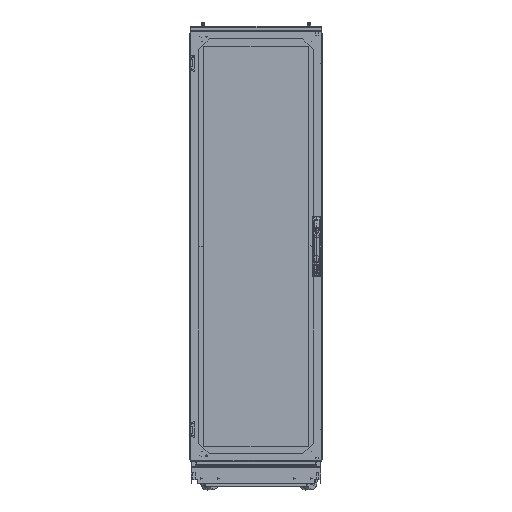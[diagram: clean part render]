
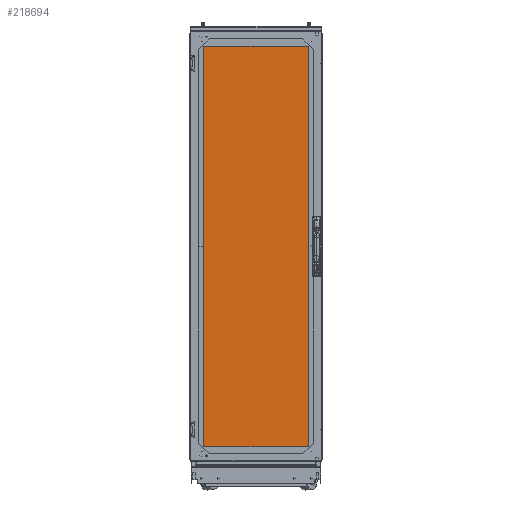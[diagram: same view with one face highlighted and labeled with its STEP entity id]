
A CAD part, top view. The second image highlights one B-rep face of the part: STEP entity #218694.
In plain terms, the highlighted free-form (B-spline) face has degree [1, 1] with [2, 2] control points.
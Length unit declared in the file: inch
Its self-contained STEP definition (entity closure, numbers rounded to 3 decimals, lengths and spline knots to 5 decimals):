
#218589=CARTESIAN_POINT('F2',(44.34304,-18.69752,
   0.125));
#218590=CARTESIAN_POINT('F2',(44.34304,2.7572,
   0.125));
#218591=CARTESIAN_POINT('F2',(-32.9601,
   -18.69752,0.125));
#218592=CARTESIAN_POINT('F2',(-32.9601,2.7572,
   0.125));
#218593=B_SPLINE_SURFACE_WITH_KNOTS('F2',1,1,((#218589,#218591),(
   #218590,#218592)),.PLANE_SURF.,.F.,.F.,.U.,(2,2),(2,2),(0.0,
   1.0),(0.0,3.60308),.UNSPECIFIED.);
#218594=CARTESIAN_POINT('V2',(40.57336,-18.1867,
   0.125));
#218595=VERTEX_POINT('V2',#218594);
#218596=CARTESIAN_POINT('V16',(42.5025,
   -16.25756,0.125));
#218597=VERTEX_POINT('V16',#218596);
#218598=CARTESIAN_POINT('E9',(40.57336,-18.1867,
   0.125));
#218599=CARTESIAN_POINT('E9',(42.5025,-16.25756,
   0.125));
#218600=QUASI_UNIFORM_CURVE('E9',1,(#218598,#218599),.POLYLINE_FORM.,
   .F.,.U.);
#218601=EDGE_CURVE('E9',#218595,#218597,#218600,.T.);
#218602=ORIENTED_EDGE('E9',*,*,#218601,.T.);
#218603=CARTESIAN_POINT('V14',(42.5025,0.31724,
   0.125));
#218604=VERTEX_POINT('V14',#218603);
#218605=CARTESIAN_POINT('E10',(42.5025,
   -16.25756,0.125));
#218606=CARTESIAN_POINT('E10',(42.5025,0.31724,
   0.125));
#218607=QUASI_UNIFORM_CURVE('E10',1,(#218605,#218606),
   .POLYLINE_FORM.,.F.,.U.);
#218608=EDGE_CURVE('E10',#218597,#218604,#218607,.T.);
#218609=ORIENTED_EDGE('E10',*,*,#218608,.T.);
#218610=CARTESIAN_POINT('V12',(40.57336,2.24637,
   0.125));
#218611=VERTEX_POINT('V12',#218610);
#218612=CARTESIAN_POINT('E11',(42.5025,0.31724,
   0.125));
#218613=CARTESIAN_POINT('E11',(40.57336,2.24637,
   0.125));
#218614=QUASI_UNIFORM_CURVE('E11',1,(#218612,#218613),
   .POLYLINE_FORM.,.F.,.U.);
#218615=EDGE_CURVE('E11',#218604,#218611,#218614,.T.);
#218616=ORIENTED_EDGE('E11',*,*,#218615,.T.);
#218617=CARTESIAN_POINT('V10',(-29.19042,2.24637,
   0.125));
#218618=VERTEX_POINT('V10',#218617);
#218619=CARTESIAN_POINT('E12',(40.57336,2.24637,
   0.125));
#218620=CARTESIAN_POINT('E12',(-29.19042,2.24637,
   0.125));
#218621=QUASI_UNIFORM_CURVE('E12',1,(#218619,#218620),
   .POLYLINE_FORM.,.F.,.U.);
#218622=EDGE_CURVE('E12',#218611,#218618,#218621,.T.);
#218623=ORIENTED_EDGE('E12',*,*,#218622,.T.);
#218624=CARTESIAN_POINT('V8',(-31.11955,0.31724,
   0.125));
#218625=VERTEX_POINT('V8',#218624);
#218626=CARTESIAN_POINT('E13',(-29.19042,2.24637,
   0.125));
#218627=CARTESIAN_POINT('E13',(-31.11955,0.31724,
   0.125));
#218628=QUASI_UNIFORM_CURVE('E13',1,(#218626,#218627),
   .POLYLINE_FORM.,.F.,.U.);
#218629=EDGE_CURVE('E13',#218618,#218625,#218628,.T.);
#218630=ORIENTED_EDGE('E13',*,*,#218629,.T.);
#218631=CARTESIAN_POINT('V6',(-31.11955,
   -16.25756,0.125));
#218632=VERTEX_POINT('V6',#218631);
#218633=CARTESIAN_POINT('E14',(-31.11955,0.31724,
   0.125));
#218634=CARTESIAN_POINT('E14',(-31.11955,
   -16.25756,0.125));
#218635=QUASI_UNIFORM_CURVE('E14',1,(#218633,#218634),
   .POLYLINE_FORM.,.F.,.U.);
#218636=EDGE_CURVE('E14',#218625,#218632,#218635,.T.);
#218637=ORIENTED_EDGE('E14',*,*,#218636,.T.);
#218638=CARTESIAN_POINT('V4',(-29.19042,
   -18.1867,0.125));
#218639=VERTEX_POINT('V4',#218638);
#218640=CARTESIAN_POINT('E15',(-31.11955,
   -16.25756,0.125));
#218641=CARTESIAN_POINT('E15',(-29.19042,
   -18.1867,0.125));
#218642=QUASI_UNIFORM_CURVE('E15',1,(#218640,#218641),
   .POLYLINE_FORM.,.F.,.U.);
#218643=EDGE_CURVE('E15',#218632,#218639,#218642,.T.);
#218644=ORIENTED_EDGE('E15',*,*,#218643,.T.);
#218645=CARTESIAN_POINT('E16',(-29.19042,
   -18.1867,0.125));
#218646=CARTESIAN_POINT('E16',(40.57336,
   -18.1867,0.125));
#218647=QUASI_UNIFORM_CURVE('E16',1,(#218645,#218646),
   .POLYLINE_FORM.,.F.,.U.);
#218648=EDGE_CURVE('E16',#218639,#218595,#218647,.T.);
#218649=ORIENTED_EDGE('E16',*,*,#218648,.T.);
#218650=EDGE_LOOP('F2',(#218602,#218609,#218616,#218623,#218630,
   #218637,#218644,#218649));
#218651=FACE_OUTER_BOUND('F2',#218650,.T.);
#218652=CARTESIAN_POINT('V20',(5.69147,-17.92119,
   0.125));
#218653=VERTEX_POINT('V20',#218652);
#218654=CARTESIAN_POINT('E29',(5.69147,-17.92119,
   0.125));
#218655=CARTESIAN_POINT('E29',(5.31259,-17.92119,
   0.125));
#218656=CARTESIAN_POINT('E29',(5.50203,-17.59307,
   0.125));
#218657=CARTESIAN_POINT('E29',(5.69147,-17.26494,
   0.125));
#218658=CARTESIAN_POINT('E29',(5.88092,-17.59307,
   0.125));
#218659=CARTESIAN_POINT('E29',(6.07036,-17.92119,
   0.125));
#218660=CARTESIAN_POINT('E29',(5.69147,-17.92119,
   0.125));
#218668=(BOUNDED_CURVE()B_SPLINE_CURVE(2,(#218654,#218655,#218656,
   #218657,#218658,#218659,#218660),.CIRCULAR_ARC.,.T.,.U.)
   B_SPLINE_CURVE_WITH_KNOTS((3,2,2,3),(0.0,0.33333,
   0.66667,1.0),.UNSPECIFIED.)CURVE()
   GEOMETRIC_REPRESENTATION_ITEM()RATIONAL_B_SPLINE_CURVE((1.0,
   0.5,1.0,0.5,1.0,0.5,1.0)
   )REPRESENTATION_ITEM('E29'));
#218669=EDGE_CURVE('E29',#218653,#218653,#218668,.T.);
#218670=ORIENTED_EDGE('E29',*,*,#218669,.T.);
#218671=EDGE_LOOP('F2',(#218670));
#218672=FACE_BOUND('F2',#218671,.T.);
#218673=CARTESIAN_POINT('V18',(5.47272,1.76212,
   0.125));
#218674=VERTEX_POINT('V18',#218673);
#218675=CARTESIAN_POINT('E26',(5.47272,1.76212,
   0.125));
#218676=CARTESIAN_POINT('E26',(5.47272,2.14101,
   0.125));
#218677=CARTESIAN_POINT('E26',(5.80085,1.95157,
   0.125));
#218678=CARTESIAN_POINT('E26',(6.12897,1.76212,
   0.125));
#218679=CARTESIAN_POINT('E26',(5.80085,1.57268,
   0.125));
#218680=CARTESIAN_POINT('E26',(5.47272,1.38324,
   0.125));
#218681=CARTESIAN_POINT('E26',(5.47272,1.76212,
   0.125));
#218689=(BOUNDED_CURVE()B_SPLINE_CURVE(2,(#218675,#218676,#218677,
   #218678,#218679,#218680,#218681),.CIRCULAR_ARC.,.T.,.U.)
   B_SPLINE_CURVE_WITH_KNOTS((3,2,2,3),(0.0,0.33333,
   0.66667,1.0),.UNSPECIFIED.)CURVE()
   GEOMETRIC_REPRESENTATION_ITEM()RATIONAL_B_SPLINE_CURVE((1.0,
   0.5,1.0,0.5,1.0,0.5,1.0)
   )REPRESENTATION_ITEM('E26'));
#218690=EDGE_CURVE('E26',#218674,#218674,#218689,.T.);
#218691=ORIENTED_EDGE('E26',*,*,#218690,.T.);
#218692=EDGE_LOOP('F2',(#218691));
#218693=FACE_BOUND('F2',#218692,.T.);
#218694=ADVANCED_FACE('F2',(#218651,#218672,#218693),#218593,.T.);
